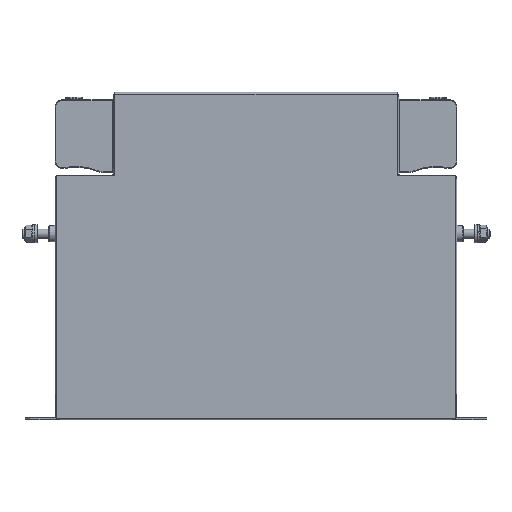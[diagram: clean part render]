
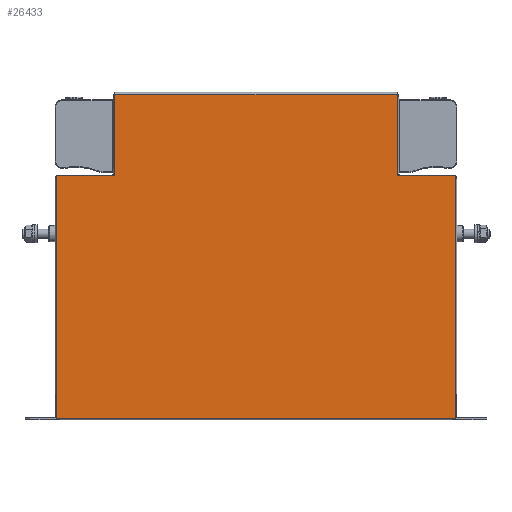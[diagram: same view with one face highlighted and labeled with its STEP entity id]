
A CAD part, top view. The second image highlights one B-rep face of the part: STEP entity #26433.
In plain terms, the highlighted planar face has unit normal (0, 0, 1).
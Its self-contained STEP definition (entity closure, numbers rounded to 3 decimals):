
#3881=FACE_OUTER_BOUND('',#5610,.T.);
#5610=EDGE_LOOP('',(#22480,#22481,#22482,#22483,#22484,#22485,#22486,#22487,
#22488,#22489));
#7776=LINE('',#46262,#9936);
#7777=LINE('',#46264,#9937);
#7778=LINE('',#46266,#9938);
#7779=LINE('',#46268,#9939);
#7780=LINE('',#46270,#9940);
#7781=LINE('',#46272,#9941);
#7782=LINE('',#46274,#9942);
#7783=LINE('',#46276,#9943);
#7784=LINE('',#46278,#9944);
#7785=LINE('',#46279,#9945);
#9936=VECTOR('',#36584,10.);
#9937=VECTOR('',#36585,10.);
#9938=VECTOR('',#36586,10.);
#9939=VECTOR('',#36587,10.);
#9940=VECTOR('',#36588,10.);
#9941=VECTOR('',#36589,10.);
#9942=VECTOR('',#36590,10.);
#9943=VECTOR('',#36591,10.);
#9944=VECTOR('',#36592,10.);
#9945=VECTOR('',#36593,10.);
#12046=VERTEX_POINT('',#46260);
#12047=VERTEX_POINT('',#46261);
#12048=VERTEX_POINT('',#46263);
#12049=VERTEX_POINT('',#46265);
#12050=VERTEX_POINT('',#46267);
#12051=VERTEX_POINT('',#46269);
#12052=VERTEX_POINT('',#46271);
#12053=VERTEX_POINT('',#46273);
#12054=VERTEX_POINT('',#46275);
#12055=VERTEX_POINT('',#46277);
#15537=EDGE_CURVE('',#12046,#12047,#7776,.T.);
#15538=EDGE_CURVE('',#12046,#12048,#7777,.T.);
#15539=EDGE_CURVE('',#12048,#12049,#7778,.T.);
#15540=EDGE_CURVE('',#12049,#12050,#7779,.T.);
#15541=EDGE_CURVE('',#12050,#12051,#7780,.T.);
#15542=EDGE_CURVE('',#12051,#12052,#7781,.T.);
#15543=EDGE_CURVE('',#12053,#12052,#7782,.T.);
#15544=EDGE_CURVE('',#12054,#12053,#7783,.T.);
#15545=EDGE_CURVE('',#12055,#12054,#7784,.T.);
#15546=EDGE_CURVE('',#12047,#12055,#7785,.T.);
#22480=ORIENTED_EDGE('',*,*,#15537,.F.);
#22481=ORIENTED_EDGE('',*,*,#15538,.T.);
#22482=ORIENTED_EDGE('',*,*,#15539,.T.);
#22483=ORIENTED_EDGE('',*,*,#15540,.T.);
#22484=ORIENTED_EDGE('',*,*,#15541,.T.);
#22485=ORIENTED_EDGE('',*,*,#15542,.T.);
#22486=ORIENTED_EDGE('',*,*,#15543,.F.);
#22487=ORIENTED_EDGE('',*,*,#15544,.F.);
#22488=ORIENTED_EDGE('',*,*,#15545,.F.);
#22489=ORIENTED_EDGE('',*,*,#15546,.F.);
#23330=PLANE('',#29116);
#26433=ADVANCED_FACE('',(#3881),#23330,.T.);
#29116=AXIS2_PLACEMENT_3D('',#46259,#36582,#36583);
#36582=DIRECTION('center_axis',(0.,0.,
1.));
#36583=DIRECTION('ref_axis',(1.,0.,0.));
#36584=DIRECTION('',(0.707,-0.707,0.));
#36585=DIRECTION('',(-1.,0.,0.));
#36586=DIRECTION('',(0.,1.,0.));
#36587=DIRECTION('',(-1.,0.,0.));
#36588=DIRECTION('',(0.,-1.,0.));
#36589=DIRECTION('',(-1.,0.,0.));
#36590=DIRECTION('',(0.707,0.707,0.));
#36591=DIRECTION('',(0.,1.,0.));
#36592=DIRECTION('',(-1.,0.,0.));
#36593=DIRECTION('',(0.,-1.,0.));
#46259=CARTESIAN_POINT('Origin',(0.,110.5,47.4));
#46260=CARTESIAN_POINT('',(132.8,164.,47.4));
#46261=CARTESIAN_POINT('',(133.8,163.,47.4));
#46262=CARTESIAN_POINT('',(113.225,183.575,47.4));
#46263=CARTESIAN_POINT('',(94.8,164.,47.4));
#46264=CARTESIAN_POINT('',(66.9,164.,47.4));
#46265=CARTESIAN_POINT('',(94.8,218.2,47.4));
#46266=CARTESIAN_POINT('',(94.8,137.25,47.4));
#46267=CARTESIAN_POINT('',(-94.8,218.2,47.4));
#46268=CARTESIAN_POINT('',(47.4,218.2,47.4));
#46269=CARTESIAN_POINT('',(-94.8,164.,47.4));
#46270=CARTESIAN_POINT('',(-94.8,165.25,47.4));
#46271=CARTESIAN_POINT('',(-132.8,164.,47.4));
#46272=CARTESIAN_POINT('',(-47.4,164.,47.4));
#46273=CARTESIAN_POINT('',(-133.8,163.,47.4));
#46274=CARTESIAN_POINT('',(-113.225,183.575,47.4));
#46275=CARTESIAN_POINT('',(-133.8,1.,47.4));
#46276=CARTESIAN_POINT('',(-133.8,220.,47.4));
#46277=CARTESIAN_POINT('',(133.8,1.,47.4));
#46278=CARTESIAN_POINT('',(-133.8,1.,47.4));
#46279=CARTESIAN_POINT('',(133.8,1.,47.4));
